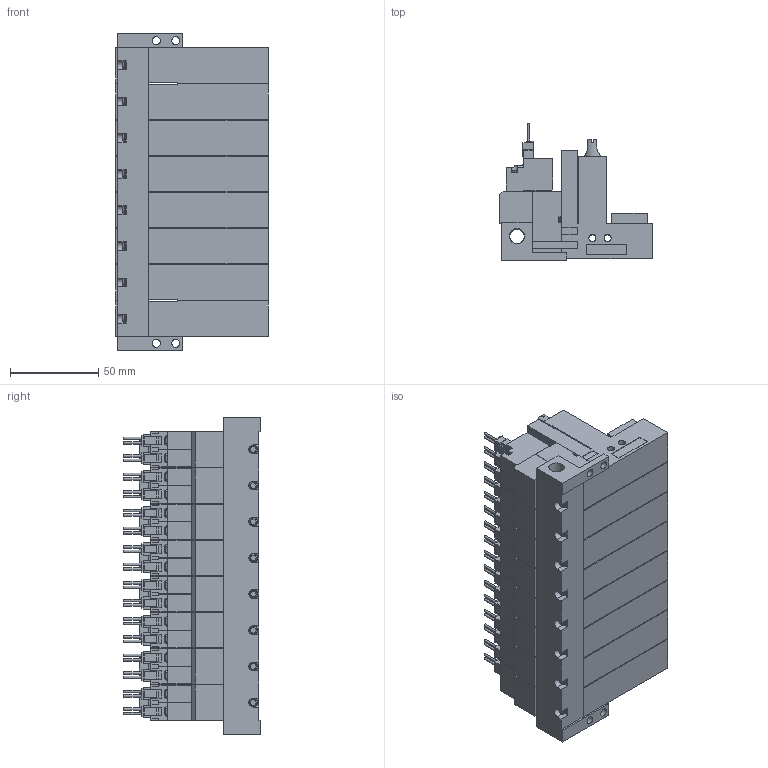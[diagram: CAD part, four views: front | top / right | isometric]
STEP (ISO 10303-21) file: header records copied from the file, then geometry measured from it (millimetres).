
FILE_DESCRIPTION(('STEP AP203'),'1');
FILE_NAME('ZL5BLR808.stp','2025-02-25T04:59:15',(' '),(' '),'Spatial InterOp 3D',' ',' ');
FILE_SCHEMA(('CONFIG_CONTROL_DESIGN'));
Length unit declared in the file: millimetre
Products named in the file (5): BMC22M※※※※ZL5BLR808; Solenoid valve B; Pressure sensor ZL; Unit L; Base MR80R
Assembly tree (25 placements, depth 2):
  BMC22M※※※※ZL5BLR808
    Solenoid valve B  x8
    Pressure sensor ZL  x8
    Unit L  x8
    Base MR80R
Bounding box: 86.6 x 77.45 x 179.5 mm (x, y, z)
Volume: 610794.3 mm3; surface area: 172672.3 mm2
Topology: 25 solids, 25 shells, 2597 faces, 7067 edges, 4664 vertices
Faces by surface type: plane 2238, cylinder 277, cone 58, torus 24
Full cylindrical faces by diameter (mm): 1.4 x32, 2.5 x8, 3 x32, 3.5 x32, 3.6 x8, 4 x16, 4.134 x8, 4.5 x4, 5.2 x8, 6 x8, 6.6 x8, 8.279 x1
Entity records: 14190 total; most frequent: CARTESIAN_POINT 2777, DIRECTION 2264, ORIENTED_EDGE 2152, EDGE_CURVE 1076, LINE 840, VECTOR 840, VERTEX_POINT 765, AXIS2_PLACEMENT_3D 712
